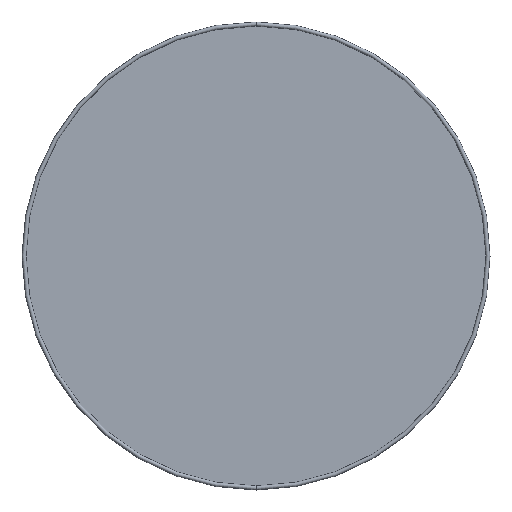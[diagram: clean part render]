
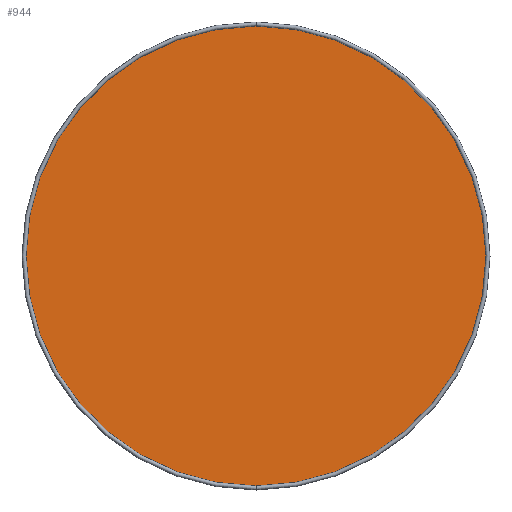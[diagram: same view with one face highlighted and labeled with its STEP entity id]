
A CAD part, front view. The second image highlights one B-rep face of the part: STEP entity #944.
In plain terms, the highlighted planar face has unit normal (0, -1, 0).
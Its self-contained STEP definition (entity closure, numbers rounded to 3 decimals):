
#1 = DIRECTION ( 'NONE',  ( 0., 1., 0. ) ) ;
#247 = FACE_OUTER_BOUND ( 'NONE', #1365, .T. ) ;
#419 = ORIENTED_EDGE ( 'NONE', *, *, #813, .T. ) ;
#461 = ORIENTED_EDGE ( 'NONE', *, *, #1054, .T. ) ;
#474 = CIRCLE ( 'NONE', #845, 396.5 ) ;
#496 = DIRECTION ( 'NONE',  ( 0., 0., 1. ) ) ;
#509 = AXIS2_PLACEMENT_3D ( 'NONE', #1127, #1, #496 ) ;
#565 = CARTESIAN_POINT ( 'NONE',  ( 0., -2.9, 0. ) ) ;
#615 = CIRCLE ( 'NONE', #1385, 396.5 ) ;
#625 = PLANE ( 'NONE',  #509 ) ;
#813 = EDGE_CURVE ( 'NONE', #1131, #1503, #615, .T. ) ;
#834 = DIRECTION ( 'NONE',  ( 0., -1., 0. ) ) ;
#845 = AXIS2_PLACEMENT_3D ( 'NONE', #1093, #1452, #1324 ) ;
#944 = ADVANCED_FACE ( 'NONE', ( #247 ), #625, .F. ) ;
#962 = CARTESIAN_POINT ( 'NONE',  ( 0., -2.9, 396.5 ) ) ;
#1054 = EDGE_CURVE ( 'NONE', #1503, #1131, #474, .T. ) ;
#1093 = CARTESIAN_POINT ( 'NONE',  ( 0., -2.9, 0. ) ) ;
#1127 = CARTESIAN_POINT ( 'NONE',  ( 0., -2.9, 0. ) ) ;
#1131 = VERTEX_POINT ( 'NONE', #962 ) ;
#1259 = CARTESIAN_POINT ( 'NONE',  ( 0., -2.9, -396.5 ) ) ;
#1324 = DIRECTION ( 'NONE',  ( 0., 0., -1. ) ) ;
#1347 = DIRECTION ( 'NONE',  ( 0., 0., -1. ) ) ;
#1365 = EDGE_LOOP ( 'NONE', ( #461, #419 ) ) ;
#1385 = AXIS2_PLACEMENT_3D ( 'NONE', #565, #834, #1347 ) ;
#1452 = DIRECTION ( 'NONE',  ( 0., -1., 0. ) ) ;
#1503 = VERTEX_POINT ( 'NONE', #1259 ) ;
